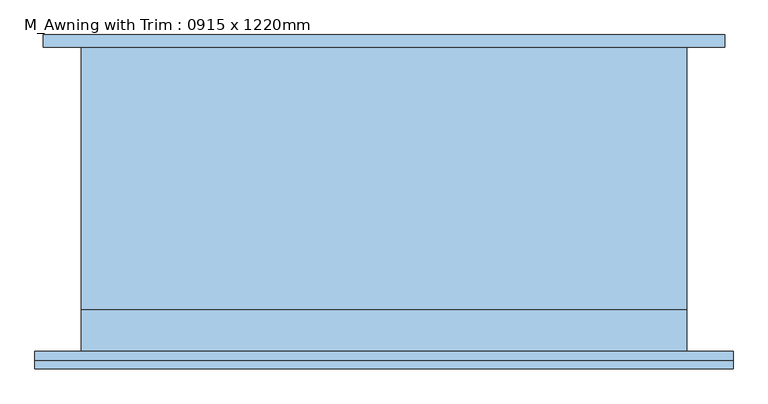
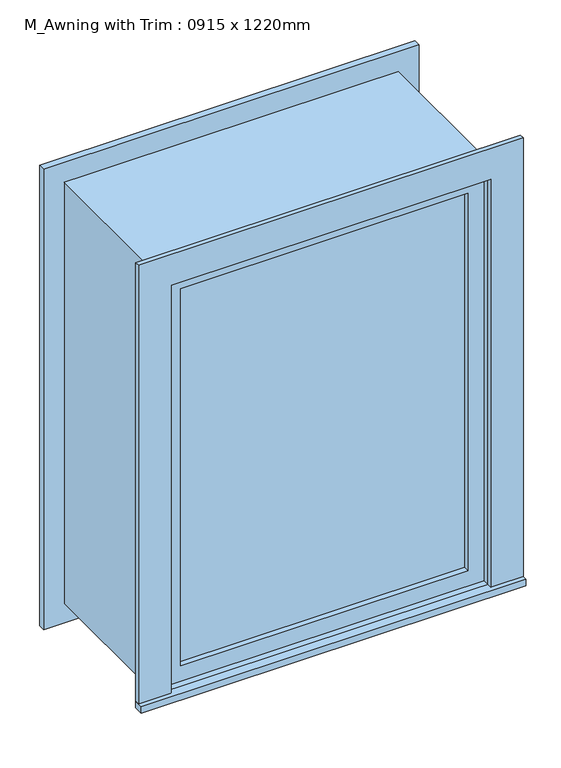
"""IFC4 building model written with IfcOpenShell, lengths in millimetres: window geometry, M_Awning with Trim : 0915 x 1220mm."""

from ifc_helpers import new_model, si_unit, frame, origin, place, context, project, spatial, polyline, outline, extrude, source, transform, mapped, element, save


def m_awning_with_trim_0915_x_1220mm_118d3a6c(model_context):
    return source(origin(), model_context, "Body", "SweptSolid", [
        extrude(outline(polyline([(-527.45, -255.7), (-527.45, -230.0), (527.45, -230.0), (527.45, -255.7), (-527.45, -255.7)])), frame((0.0, 0.0, 915.0), z_axis=(0.0, 0.0, 1.0), x_axis=(1.0, 0.0, 0.0)), (0.0, 0.0, 1.0), 19.05),
        extrude(outline(polyline([(2115.95, -438.45), (2115.95, 438.45), (934.05, 438.45), (934.05, 527.45), (2204.95, 527.45), (2204.95, -527.45), (934.05, -527.45), (934.05, -438.45), (2115.95, -438.45)])), frame((0.0, -243.0, 0.0), z_axis=(0.0, 1.0, 0.0), x_axis=(0.0, 0.0, 1.0)), (0.0, 0.0, 1.0), 13.0),
        extrude(outline(polyline([(2192.25, 514.75), (2192.25, -514.75), (857.75, -514.75), (857.75, 514.75), (2192.25, 514.75)]), holes=[polyline([(2103.25, 425.75), (946.75, 425.75), (946.75, -425.75), (2103.25, -425.75), (2103.25, 425.75)])]), frame((0.0, 230.0, 0.0), z_axis=(0.0, 1.0, 0.0), x_axis=(0.0, 0.0, 1.0)), (0.0, 0.0, 1.0), 19.0),
        extrude(outline(polyline([(394.0, -182.425), (394.0, -195.125), (-394.0, -195.125), (-394.0, -182.425), (394.0, -182.425)])), frame((0.0, 0.0, 978.5), z_axis=(0.0, 0.0, 1.0), x_axis=(1.0, 0.0, 0.0)), (0.0, 0.0, 1.0), 1093.0),
        extrude(outline(polyline([(2115.95, -438.45), (934.05, -438.45), (934.05, 438.45), (2115.95, 438.45), (2115.95, -438.45)]), holes=[polyline([(2071.5, -394.0), (2071.5, 394.0), (978.5, 394.0), (978.5, -394.0), (2071.5, -394.0)])]), frame((0.0, -211.0, 0.0), z_axis=(0.0, 1.0, 0.0), x_axis=(0.0, 0.0, 1.0)), (0.0, 0.0, 1.0), 44.45),
        extrude(outline(polyline([(2135.0, -457.5), (915.0, -457.5), (915.0, 457.5), (2135.0, 457.5), (2135.0, -457.5)]), holes=[polyline([(2103.25, -425.75), (2103.25, 425.75), (946.75, 425.75), (946.75, -425.75), (2103.25, -425.75)])]), frame((0.0, -166.55, 0.0), z_axis=(0.0, 1.0, 0.0), x_axis=(0.0, 0.0, 1.0)), (0.0, 0.0, 1.0), 396.55),
        extrude(outline(polyline([(2135.0, 457.5), (2135.0, -457.5), (915.0, -457.5), (915.0, 457.5), (2135.0, 457.5)]), holes=[polyline([(2115.95, 438.45), (934.05, 438.45), (934.05, -438.45), (2115.95, -438.45), (2115.95, 438.45)])]), frame((0.0, -230.0, 0.0), z_axis=(0.0, 1.0, 0.0), x_axis=(0.0, 0.0, 1.0)), (0.0, 0.0, 1.0), 63.45),
    ])


if __name__ == "__main__":
    model = new_model("IFC4")
    model_context = context("Model", 3, world=origin())
    ifc_project = project(units=[si_unit("LENGTHUNIT", "METRE", prefix="MILLI")], contexts=[model_context])
    site = spatial("IfcSite", under=ifc_project)
    building = spatial("IfcBuilding", under=site)
    placement = place(None, origin())
    m_awning_with_trim_0915_x_1220mm_shape = m_awning_with_trim_0915_x_1220mm_118d3a6c(model_context)
    element("IfcWindow", 1, ObjectType="M_Awning with Trim : 0915 x 1220mm", at=placement, inside=building, context=model_context, shape_type="MappedRepresentation", body=[
        mapped(m_awning_with_trim_0915_x_1220mm_shape, transform((0.0, 0.0, 0.0), x_axis=(1.0, 0.0, 0.0), y_axis=(0.0, 1.0, 0.0), z_axis=(0.0, 0.0, 1.0))),
    ])
    save(model, "model.ifc")
